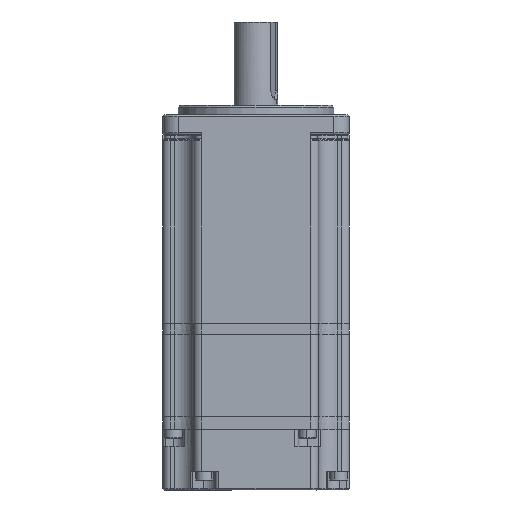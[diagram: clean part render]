
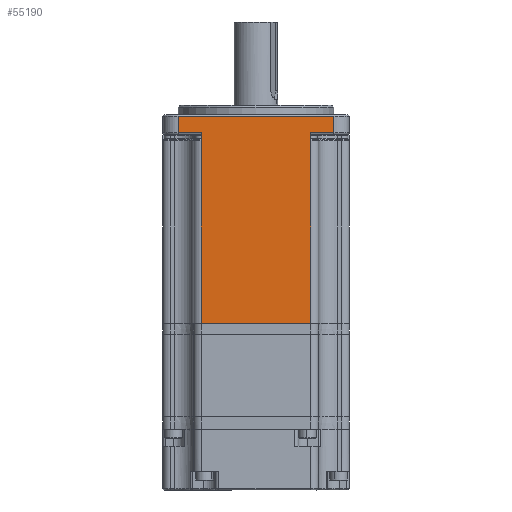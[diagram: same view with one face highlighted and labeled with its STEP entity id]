
A CAD part, front view. The second image highlights one B-rep face of the part: STEP entity #55190.
In plain terms, the highlighted planar face has unit normal (0, -1, 0) as drawn and (0, 1, 0) by its records, which use the part's own axes.
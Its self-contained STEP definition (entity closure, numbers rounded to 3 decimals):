
#1306 = CARTESIAN_POINT ( 'NONE',  ( -17.6, 30., 60.7 ) ) ;
#2134 = ORIENTED_EDGE ( 'NONE', *, *, #55773, .T. ) ;
#2308 = DIRECTION ( 'NONE',  ( 0., 0., -1. ) ) ;
#5867 = VECTOR ( 'NONE', #16727, 1000. ) ;
#5889 = LINE ( 'NONE', #97560, #46753 ) ;
#6782 = EDGE_CURVE ( 'NONE', #32103, #91095, #100719, .T. ) ;
#7814 = LINE ( 'NONE', #81615, #12957 ) ;
#8390 = DIRECTION ( 'NONE',  ( 0., 0., 1. ) ) ;
#8832 = VERTEX_POINT ( 'NONE', #91995 ) ;
#10458 = LINE ( 'NONE', #46816, #55295 ) ;
#10573 = VERTEX_POINT ( 'NONE', #95753 ) ;
#12957 = VECTOR ( 'NONE', #8390, 1000. ) ;
#13214 = CARTESIAN_POINT ( 'NONE',  ( 17.6, 30., 58.7 ) ) ;
#14594 = LINE ( 'NONE', #79458, #16570 ) ;
#16570 = VECTOR ( 'NONE', #117360, 1000. ) ;
#16668 = EDGE_CURVE ( 'NONE', #91095, #8832, #5889, .T. ) ;
#16727 = DIRECTION ( 'NONE',  ( 0., 0., -1. ) ) ;
#17065 = LINE ( 'NONE', #33180, #34601 ) ;
#19192 = DIRECTION ( 'NONE',  ( 0., 0., 1. ) ) ;
#20741 = VERTEX_POINT ( 'NONE', #43521 ) ;
#24010 = CARTESIAN_POINT ( 'NONE',  ( -17.6, 30., 58.7 ) ) ;
#30664 = DIRECTION ( 'NONE',  ( 1., 0., 0. ) ) ;
#32103 = VERTEX_POINT ( 'NONE', #24010 ) ;
#33177 = VERTEX_POINT ( 'NONE', #13214 ) ;
#33180 = CARTESIAN_POINT ( 'NONE',  ( -17.6, 30., 60.7 ) ) ;
#33381 = EDGE_CURVE ( 'NONE', #8832, #74994, #7814, .T. ) ;
#34601 = VECTOR ( 'NONE', #53424, 1000. ) ;
#35553 = VERTEX_POINT ( 'NONE', #75920 ) ;
#35850 = CARTESIAN_POINT ( 'NONE',  ( 30., 30., 0. ) ) ;
#37495 = ORIENTED_EDGE ( 'NONE', *, *, #6782, .T. ) ;
#38155 = DIRECTION ( 'NONE',  ( 1., 0., 0. ) ) ;
#39739 = ORIENTED_EDGE ( 'NONE', *, *, #16668, .T. ) ;
#40535 = VECTOR ( 'NONE', #19192, 1000. ) ;
#43521 = CARTESIAN_POINT ( 'NONE',  ( 17.6, 30., 61.2 ) ) ;
#45335 = LINE ( 'NONE', #72665, #5867 ) ;
#46753 = VECTOR ( 'NONE', #60661, 1000. ) ;
#46776 = CARTESIAN_POINT ( 'NONE',  ( 25., 30., 60.7 ) ) ;
#46816 = CARTESIAN_POINT ( 'NONE',  ( 25., 30., 66.5 ) ) ;
#49623 = CARTESIAN_POINT ( 'NONE',  ( -25., 30., 66.5 ) ) ;
#50563 = ORIENTED_EDGE ( 'NONE', *, *, #113878, .T. ) ;
#53424 = DIRECTION ( 'NONE',  ( 0., 0., 1. ) ) ;
#53825 = AXIS2_PLACEMENT_3D ( 'NONE', #91154, #64347, #38155 ) ;
#54856 = FACE_OUTER_BOUND ( 'NONE', #97785, .T. ) ;
#55190 = ADVANCED_FACE ( 'NONE', ( #54856 ), #74446, .F. ) ;
#55295 = VECTOR ( 'NONE', #30664, 1000. ) ;
#55433 = ORIENTED_EDGE ( 'NONE', *, *, #113515, .T. ) ;
#55690 = DIRECTION ( 'NONE',  ( 0., 0., -1. ) ) ;
#55773 = EDGE_CURVE ( 'NONE', #10573, #32103, #17065, .T. ) ;
#56880 = ORIENTED_EDGE ( 'NONE', *, *, #76307, .T. ) ;
#57304 = ORIENTED_EDGE ( 'NONE', *, *, #33381, .T. ) ;
#60661 = DIRECTION ( 'NONE',  ( -1., 0., 0. ) ) ;
#64347 = DIRECTION ( 'NONE',  ( 0., -1., 0. ) ) ;
#69808 = EDGE_CURVE ( 'NONE', #113452, #10573, #108427, .T. ) ;
#70554 = ORIENTED_EDGE ( 'NONE', *, *, #69808, .T. ) ;
#72035 = VECTOR ( 'NONE', #55690, 1000. ) ;
#72374 = ORIENTED_EDGE ( 'NONE', *, *, #80174, .T. ) ;
#72665 = CARTESIAN_POINT ( 'NONE',  ( 17.6, 30., 60.7 ) ) ;
#72923 = LINE ( 'NONE', #46776, #72035 ) ;
#74147 = CARTESIAN_POINT ( 'NONE',  ( -17.6, 30., 61.2 ) ) ;
#74446 = PLANE ( 'NONE',  #53825 ) ;
#74994 = VERTEX_POINT ( 'NONE', #49623 ) ;
#75920 = CARTESIAN_POINT ( 'NONE',  ( 25., 30., 61.2 ) ) ;
#76307 = EDGE_CURVE ( 'NONE', #35553, #20741, #14594, .T. ) ;
#79458 = CARTESIAN_POINT ( 'NONE',  ( 17.6, 30., 61.2 ) ) ;
#79899 = DIRECTION ( 'NONE',  ( -1., 0., 0. ) ) ;
#80174 = EDGE_CURVE ( 'NONE', #112068, #35553, #72923, .T. ) ;
#81615 = CARTESIAN_POINT ( 'NONE',  ( -25., 30., 60.7 ) ) ;
#83852 = CARTESIAN_POINT ( 'NONE',  ( 17.6, 30., 60.7 ) ) ;
#91095 = VERTEX_POINT ( 'NONE', #74147 ) ;
#91154 = CARTESIAN_POINT ( 'NONE',  ( 30., 30., 60.7 ) ) ;
#91995 = CARTESIAN_POINT ( 'NONE',  ( -25., 30., 61.2 ) ) ;
#93956 = LINE ( 'NONE', #83852, #112735 ) ;
#95753 = CARTESIAN_POINT ( 'NONE',  ( -17.6, 30., 0. ) ) ;
#97560 = CARTESIAN_POINT ( 'NONE',  ( -25., 30., 61.2 ) ) ;
#97785 = EDGE_LOOP ( 'NONE', ( #72374, #56880, #55433, #115674, #70554, #2134, #37495, #39739, #57304, #50563 ) ) ;
#99462 = CARTESIAN_POINT ( 'NONE',  ( 17.6, 30., 0. ) ) ;
#100549 = VECTOR ( 'NONE', #79899, 1000. ) ;
#100719 = LINE ( 'NONE', #1306, #40535 ) ;
#108427 = LINE ( 'NONE', #35850, #100549 ) ;
#112068 = VERTEX_POINT ( 'NONE', #112716 ) ;
#112716 = CARTESIAN_POINT ( 'NONE',  ( 25., 30., 66.5 ) ) ;
#112735 = VECTOR ( 'NONE', #2308, 1000. ) ;
#113452 = VERTEX_POINT ( 'NONE', #99462 ) ;
#113515 = EDGE_CURVE ( 'NONE', #20741, #33177, #45335, .T. ) ;
#113878 = EDGE_CURVE ( 'NONE', #74994, #112068, #10458, .T. ) ;
#115674 = ORIENTED_EDGE ( 'NONE', *, *, #116598, .T. ) ;
#116598 = EDGE_CURVE ( 'NONE', #33177, #113452, #93956, .T. ) ;
#117360 = DIRECTION ( 'NONE',  ( -1., 0., 0. ) ) ;
